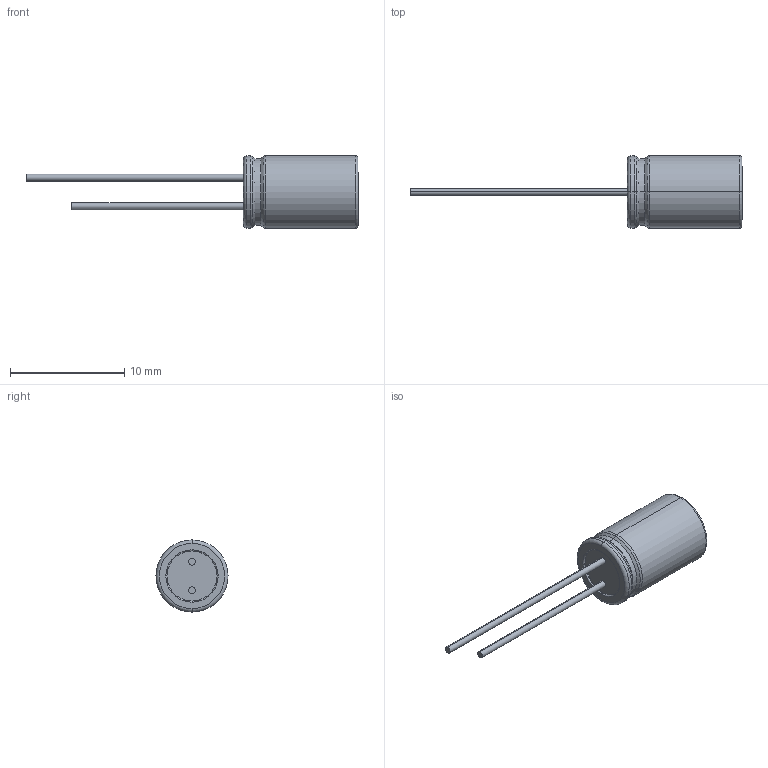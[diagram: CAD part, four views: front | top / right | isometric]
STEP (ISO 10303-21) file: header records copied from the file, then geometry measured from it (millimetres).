
FILE_DESCRIPTION((''),'2;1');
FILE_NAME('HYBRID_RADIAL63X10','2020-05-20T',('xy'),(''),'PRO/ENGINEER BY PARAMETRIC TECHNOLOGY CORPORATION, 2009380','PRO/ENGINEER BY PARAMETRIC TECHNOLOGY CORPORATION, 2009380','');
FILE_SCHEMA(('CONFIG_CONTROL_DESIGN'));
Length unit declared in the file: millimetre
Products named in the file (1): HYBRID_RADIAL63X10
Bounding box: 29 x 6.3 x 6.3 mm (x, y, z)
Volume: 314 mm3; surface area: 325.3 mm2
Topology: 1 solids, 1 shells, 415 faces, 1146 edges, 758 vertices
Faces by surface type: plane 387, cylinder 13, torus 11, cone 4
Entity records: 13005 total; most frequent: CARTESIAN_POINT 2328, ORIENTED_EDGE 2292, DIRECTION 2020, EDGE_CURVE 1146, VECTOR 1098, LINE 1098, VERTEX_POINT 758, AXIS2_PLACEMENT_3D 461
